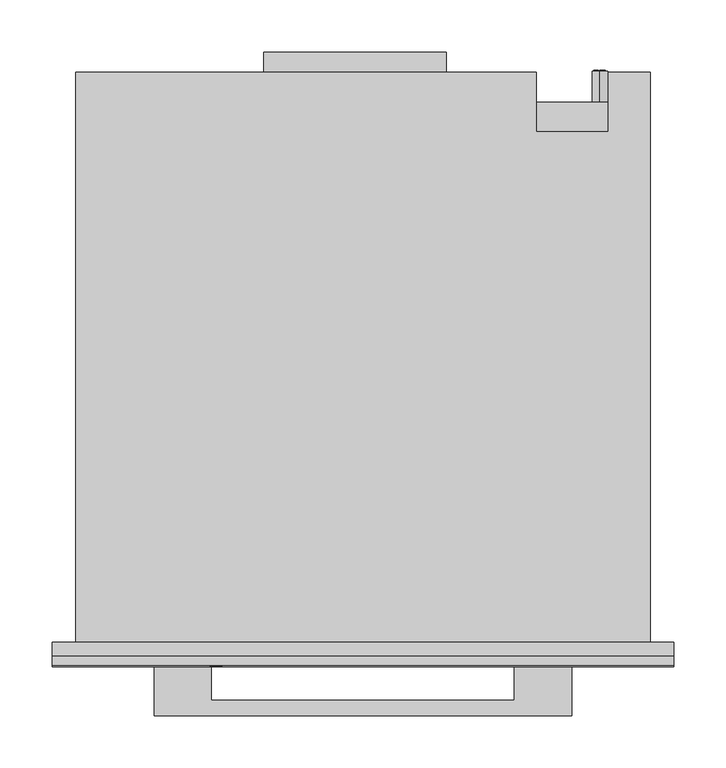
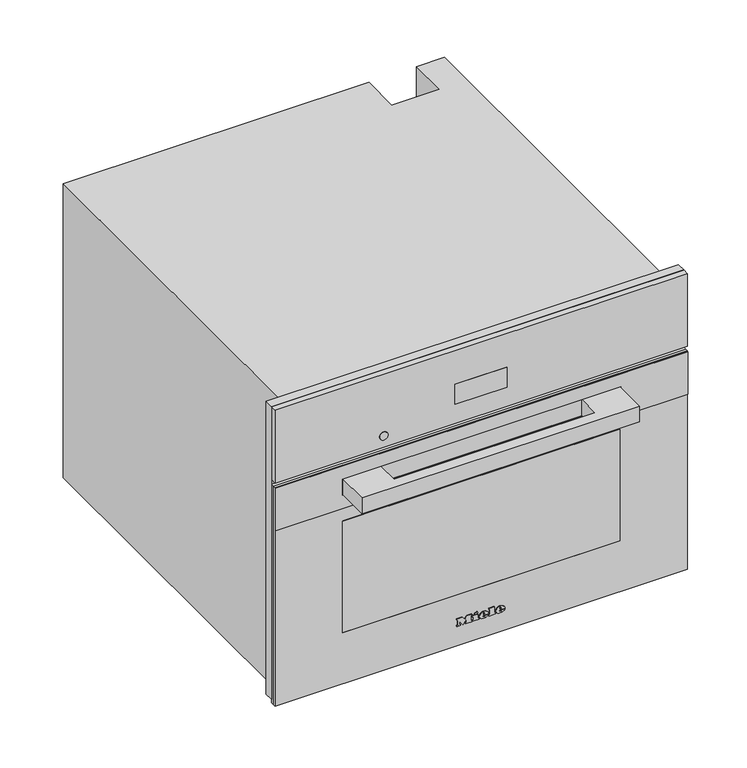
"""IFC4 building model written with IfcOpenShell, lengths in millimetres: proxy geometry, 11876950_USA_DGC7440_EDST-CLST : 23744042_USA_11876950_DGC7440_EDST-CLST."""

import ifcopenshell
import ifcopenshell.guid

model = None  # the IFC model being written
_history = None  # IfcOwnerHistory: only IFC2X3 demands one
_inside = {}  # id of a spatial element -> (the spatial element, [elements in it])
_under = {}  # id of a project, library or spatial element -> (it, [spatial elements below it])
_declared = {}  # id of a project -> (the project, [libraries it declares])
_typed = {}  # id of a type object -> (the type object, [elements of that type])
_made_of = {}  # id of a material, layer set ... -> (it, [elements and type objects made of it])


def new_model(schema):
    """Start an empty IFC model of exactly this schema.

    Asked for "IFC4X3", IfcOpenShell would pick the latest addendum, in which some entities
    have other attributes; the version numbers below select the first issue.
    IFC2X3 requires an IfcOwnerHistory on every rooted entity: one is made here for all.
    """
    global model, _history
    if schema == "IFC4X3":
        model = ifcopenshell.file(schema_version=(4, 3, 0, 0))
    else:
        model = ifcopenshell.file(schema=schema)
    _inside.clear()
    _under.clear()
    _declared.clear()
    _typed.clear()
    _made_of.clear()
    _history = None
    if model.schema == "IFC2X3":
        org = make("IfcOrganization", Name="unknown")
        user = make(
            "IfcPersonAndOrganization",
            ThePerson=make("IfcPerson", FamilyName="unknown"),
            TheOrganization=org,
        )
        app = make(
            "IfcApplication",
            ApplicationDeveloper=org,
            Version="unknown",
            ApplicationFullName="unknown",
            ApplicationIdentifier="unknown",
        )
        _history = make(
            "IfcOwnerHistory",
            OwningUser=user,
            OwningApplication=app,
            ChangeAction="ADDED",
            CreationDate=0,
        )
    return model


def make(cls, **values):
    """One entity of the class cls with the attributes given. An attribute that is None is left unset."""
    return model.create_entity(
        cls, **{name: value for name, value in values.items() if value is not None}
    )


def rooted(cls, **values):
    """An entity with a GlobalId (a new one), such as an element, a storey or a relation."""
    return make(cls, GlobalId=ifcopenshell.guid.new(), OwnerHistory=_history, **values)


def si_unit(unit_type, name, prefix=None):
    """IfcSIUnit, for example si_unit("LENGTHUNIT", "METRE", prefix="MILLI")."""
    return make("IfcSIUnit", UnitType=unit_type, Prefix=prefix, Name=name)


def assignment(units):
    """IfcUnitAssignment: the units of a project."""
    return None if units is None else make("IfcUnitAssignment", Units=units)


def point(xyz):
    """IfcCartesianPoint."""
    return None if xyz is None else make("IfcCartesianPoint", Coordinates=xyz)


def direction(xyz):
    """IfcDirection."""
    return None if xyz is None else make("IfcDirection", DirectionRatios=xyz)


def frame(location, z_axis=None, x_axis=None):
    """IfcAxis2Placement3D, a coordinate frame: its origin and axes. An axis left out is left unset."""
    return make(
        "IfcAxis2Placement3D",
        Location=point(location),
        Axis=direction(z_axis),
        RefDirection=direction(x_axis),
    )


def frame_2d(location, x_axis=None):
    """IfcAxis2Placement2D, a coordinate frame in the plane: its origin and x axis."""
    return make(
        "IfcAxis2Placement2D", Location=point(location), RefDirection=direction(x_axis)
    )


def origin():
    """The frame at (0, 0, 0) with its axes left unset."""
    return frame((0.0, 0.0, 0.0))


def place(relative_to, where):
    """IfcLocalPlacement: puts the frame where relative to a parent placement (None: the world)."""
    return make(
        "IfcLocalPlacement", PlacementRelTo=relative_to, RelativePlacement=where
    )


def context(
    kind, dimensions, precision=None, world=None, true_north=None, identifier=None
):
    """IfcGeometricRepresentationContext, for example the 3D "Model" context."""
    return make(
        "IfcGeometricRepresentationContext",
        ContextIdentifier=identifier,
        ContextType=kind,
        CoordinateSpaceDimension=dimensions,
        Precision=precision,
        WorldCoordinateSystem=world,
        TrueNorth=true_north,
    )


def project(units=None, contexts=None):
    """IfcProject with its units and contexts."""
    return rooted(
        "IfcProject",
        Name="project",
        RepresentationContexts=contexts,
        UnitsInContext=assignment(units),
    )


def spatial(cls, under=None, at=None, **own):
    """A site, building, storey or space (cls), placed at a placement, below another one or the project."""
    s = rooted(cls, ObjectPlacement=at, **own)
    if under is not None:
        _under.setdefault(under.id(), (under, []))[1].append(s)
    return s


def polyline(points):
    """IfcPolyline through the points."""
    return make("IfcPolyline", Points=[point(p) for p in points])


def circle_curve(where, radius):
    """IfcCircle in the frame where."""
    return make("IfcCircle", Position=where, Radius=radius)


def ellipse_curve(where, semi_axis1, semi_axis2):
    """IfcEllipse in the frame where."""
    return make(
        "IfcEllipse", Position=where, SemiAxis1=semi_axis1, SemiAxis2=semi_axis2
    )


def trimmed(basis, trim1, trim2, sense, master):
    """IfcTrimmedCurve: the piece of a basis curve between two trims."""
    return make(
        "IfcTrimmedCurve",
        BasisCurve=basis,
        Trim1=trim1,
        Trim2=trim2,
        SenseAgreement=sense,
        MasterRepresentation=master,
    )


def segment(curve, same_sense, transition):
    """IfcCompositeCurveSegment."""
    return make(
        "IfcCompositeCurveSegment",
        Transition=transition,
        SameSense=same_sense,
        ParentCurve=curve,
    )


def composite_curve(segments, self_intersect=None):
    """IfcCompositeCurve: segments joined end to end."""
    return make("IfcCompositeCurve", Segments=segments, SelfIntersect=self_intersect)


def outline(outer, holes=None, kind="AREA"):
    """IfcArbitraryClosedProfileDef: a profile drawn as a closed curve; with holes, ...WithVoids."""
    if holes is None:
        return make("IfcArbitraryClosedProfileDef", ProfileType=kind, OuterCurve=outer)
    return make(
        "IfcArbitraryProfileDefWithVoids",
        ProfileType=kind,
        OuterCurve=outer,
        InnerCurves=holes,
    )


def extrude(swept, where, along, depth):
    """IfcExtrudedAreaSolid: the profile swept, set in the frame where, extruded along a direction by depth."""
    return make(
        "IfcExtrudedAreaSolid",
        SweptArea=swept,
        Position=where,
        ExtrudedDirection=direction(along),
        Depth=depth,
    )


def faces_of(points, faces, orient=None, outer=None):
    """IfcFace entities. A face is a list of loops; a loop is a list of indices into points, from 0.

    orient and outer hold one flag for each loop. By default every Orientation is true, the
    first loop of a face is its IfcFaceOuterBound and the others are IfcFaceBound.
    """
    made = []
    for i, loops in enumerate(faces):
        bounds = []
        for j, loop in enumerate(loops):
            is_outer = j == 0 if outer is None else outer[i][j]
            bounds.append(
                make(
                    "IfcFaceOuterBound" if is_outer else "IfcFaceBound",
                    Bound=make("IfcPolyLoop", Polygon=[points[k] for k in loop]),
                    Orientation=True if orient is None else orient[i][j],
                )
            )
        made.append(make("IfcFace", Bounds=bounds))
    return made


def faceted_brep(points, faces, orient=None, outer=None, voids=None):
    """IfcFacetedBrep: a solid bounded by flat faces; with voids (closed shells), ...WithVoids."""
    shared = [point(p) for p in points]
    hull = make("IfcClosedShell", CfsFaces=faces_of(shared, faces, orient, outer))
    if voids is None:
        return make("IfcFacetedBrep", Outer=hull)
    return make(
        "IfcFacetedBrepWithVoids",
        Outer=hull,
        Voids=[
            make(cls, CfsFaces=faces_of(shared, fs, o, b)) for cls, fs, o, b in voids
        ],
    )


def shape(context_of_items, identifier, shape_type, items):
    """IfcShapeRepresentation: the items that make up one representation, for example the "Body"."""
    return make(
        "IfcShapeRepresentation",
        ContextOfItems=context_of_items,
        RepresentationIdentifier=identifier,
        RepresentationType=shape_type,
        Items=items,
    )


def source(mapping_origin, context_of_items, identifier, shape_type, items):
    """IfcRepresentationMap: a shape defined once, which mapped items show again and again."""
    return make(
        "IfcRepresentationMap",
        MappingOrigin=mapping_origin,
        MappedRepresentation=shape(context_of_items, identifier, shape_type, items),
    )


def transform(
    local_origin,
    x_axis=None,
    y_axis=None,
    z_axis=None,
    scale=None,
    scale2=None,
    scale3=None,
    uniform=True,
):
    """IfcCartesianTransformationOperator3D, or its non-uniform kind. x_axis, y_axis, z_axis: its Axis1, 2, 3."""
    if uniform:
        return make(
            "IfcCartesianTransformationOperator3D",
            Axis1=direction(x_axis),
            Axis2=direction(y_axis),
            LocalOrigin=point(local_origin),
            Scale=scale,
            Axis3=direction(z_axis),
        )
    return make(
        "IfcCartesianTransformationOperator3DnonUniform",
        Axis1=direction(x_axis),
        Axis2=direction(y_axis),
        LocalOrigin=point(local_origin),
        Scale=scale,
        Axis3=direction(z_axis),
        Scale2=scale2,
        Scale3=scale3,
    )


def mapped(mapping_source, mapping_target):
    """IfcMappedItem: shows the shape of a source again, moved by a transform."""
    return make(
        "IfcMappedItem", MappingSource=mapping_source, MappingTarget=mapping_target
    )


def made_of(thing, what):
    """Note that an element or type object is made of a material, layer set ...; save() writes the relation."""
    if what is not None:
        _made_of.setdefault(what.id(), (what, []))[1].append(thing)
    return thing


def element(
    cls,
    number,
    at=None,
    inside=None,
    cuts=None,
    type_object=None,
    material=None,
    context=None,
    identifier="Body",
    shape_type=None,
    held_by="IfcProductDefinitionShape",
    body=None,
    shapes=None,
    **own,
):
    """One element of the class cls, such as IfcWall. Its Tag is "e" and its number.

    at: its placement. inside: the storey or other place that contains it. cuts: it is an
    opening in that element (IfcRelVoidsElement). A single representation is given by context,
    identifier, shape_type and body (its items); several are given by shapes. held_by: the class
    of the entity that holds the representations. save() writes the other relations.
    """
    e = rooted(cls, Tag="e%d" % number, ObjectPlacement=at, **own)
    if body is not None:
        shapes = [shape(context, identifier, shape_type, body)]
    if shapes is not None:
        e.Representation = make(held_by, Representations=shapes)
    if inside is not None:
        _inside.setdefault(inside.id(), (inside, []))[1].append(e)
    if cuts is not None:
        rooted(
            "IfcRelVoidsElement", RelatingBuildingElement=cuts, RelatedOpeningElement=e
        )
    if type_object is not None:
        _typed.setdefault(type_object.id(), (type_object, []))[1].append(e)
    return made_of(e, material)


def aggregate(whole, parts):
    """IfcRelAggregates: a whole, such as a stair, and the parts it consists of."""
    return rooted("IfcRelAggregates", RelatingObject=whole, RelatedObjects=parts)


def save(model, path):
    """Write the relations noted so far, then the file.

    IfcRelAggregates (storeys below a building ...), IfcRelContainedInSpatialStructure (elements
    in a storey), IfcRelDefinesByType, IfcRelAssociatesMaterial and IfcRelDeclares: one each for
    every whole, place, type object, material and project.
    """
    for whole, parts in _under.values():
        aggregate(whole, parts)
    for where, things in _inside.values():
        rooted(
            "IfcRelContainedInSpatialStructure",
            RelatedElements=things,
            RelatingStructure=where,
        )
    for kind, things in _typed.values():
        rooted("IfcRelDefinesByType", RelatedObjects=things, RelatingType=kind)
    for what, things in _made_of.values():
        rooted("IfcRelAssociatesMaterial", RelatedObjects=things, RelatingMaterial=what)
    for by, libraries in _declared.values():
        rooted("IfcRelDeclares", RelatingContext=by, RelatedDefinitions=libraries)
    model.write(path)


def plane_surface(at):
    """IfcPlane: the flat surface through the origin of the frame at, square to its z axis."""
    return make("IfcPlane", Position=at)


def cylinder_surface(at, radius):
    """IfcCylindricalSurface: all points at the distance radius from the z axis of the frame at."""
    return make("IfcCylindricalSurface", Position=at, Radius=radius)


def revolved_surface(curve, axis_point, axis_direction):
    """IfcSurfaceOfRevolution: the curve turned about the line through axis_point along axis_direction."""
    return make(
        "IfcSurfaceOfRevolution",
        SweptCurve=make("IfcArbitraryOpenProfileDef", ProfileType="CURVE", Curve=curve),
        AxisPosition=make("IfcAxis1Placement", Location=point(axis_point), Axis=direction(axis_direction)),
    )


def extruded_surface(curve, direction_of_extrusion, depth):
    """IfcSurfaceOfLinearExtrusion: the curve pushed along a direction by depth."""
    return make(
        "IfcSurfaceOfLinearExtrusion",
        SweptCurve=make("IfcArbitraryOpenProfileDef", ProfileType="CURVE", Curve=curve),
        ExtrudedDirection=direction(direction_of_extrusion),
        Depth=depth,
    )


def advanced_brep(points, edges, surfaces, faces):
    """IfcAdvancedBrep: a solid bounded by faces that lie on surfaces and meet in shared edges.

    An edge is (start, end): straight between two places in points (the first is 0);
    or (start, end, curve); or (start, end, curve, False) where it runs against its curve.
    A face is (place in surfaces, loops), or (place, loops, False) where it looks against
    its surface's normal. A loop lists edges by number (the first is 1), with a minus sign
    where the edge is run from its end to its start. The first loop is the outer one.
    """
    corners = [point(p) for p in points]
    vertices = [make("IfcVertexPoint", VertexGeometry=c) for c in corners]
    made = []
    for start, end, *more in edges:
        made.append(
            make(
                "IfcEdgeCurve",
                EdgeStart=vertices[start],
                EdgeEnd=vertices[end],
                EdgeGeometry=more[0] if more else make("IfcPolyline", Points=[corners[start], corners[end]]),
                SameSense=more[1] if len(more) > 1 else True,
            )
        )
    hull = []
    for where, loops, *sense in faces:
        bounds = []
        for j, loop in enumerate(loops):
            ring = [make("IfcOrientedEdge", EdgeElement=made[abs(k) - 1], Orientation=k > 0) for k in loop]
            bounds.append(
                make(
                    "IfcFaceOuterBound" if j == 0 else "IfcFaceBound",
                    Bound=make("IfcEdgeLoop", EdgeList=ring),
                    Orientation=True,
                )
            )
        hull.append(make("IfcAdvancedFace", Bounds=bounds, FaceSurface=surfaces[where], SameSense=sense[0] if sense else True))
    return make("IfcAdvancedBrep", Outer=make("IfcClosedShell", CfsFaces=hull))


def specialty_equipment_a3e2d18e(model_context):
    return source(origin(), model_context, "Body", "SolidModel", [
        extrude(outline(polyline([(455.0, 297.5), (455.0, -297.5), (9.0, -297.5), (9.0, 297.5), (455.0, 297.5)]), holes=[polyline([(344.0, -272.5), (344.0, 272.5), (27.0, 272.5), (27.0, -272.5), (344.0, -272.5)])]), frame((0.0, -13.0, 0.0), z_axis=(0.0, 1.0, 0.0), x_axis=(0.0, 0.0, 1.0)), (0.0, 0.0, 1.0), 13.0),
        extrude(outline(polyline([(-95.0, 565.0), (80.0, 565.0), (80.0, 546.0), (-95.0, 546.0), (-95.0, 565.0)])), frame((0.0, 0.0, 260.0), z_axis=(0.0, 0.0, 1.0), x_axis=(1.0, 0.0, 0.0)), (0.0, 0.0, 1.0), 1.0),
        advanced_brep(
        [(227.0, 547.0, 255.5), (227.0, 547.0, 240.5), (221.4098301, 547.0, 243.0), (225.5, 547.0, 243.0), (225.5, 547.0, 253.0), (224.4955303, 547.0, 253.0), (224.4955303, 547.0, 244.0), (221.0315043, 547.0, 244.0), (221.0315043, 547.0, 243.4582978), (232.0, 547.0, 243.0), (232.0, 547.0, 253.0), (227.0, 547.0, 253.0), (227.0, 547.0, 252.0), (231.0, 547.0, 252.0), (231.0, 547.0, 248.5), (228.0, 547.0, 248.5), (228.0, 547.0, 247.5), (231.0, 547.0, 247.5), (231.0, 547.0, 244.0), (227.0, 547.0, 244.0), (227.0, 547.0, 243.0), (227.0, 517.0, 240.5), (227.0, 517.0, 255.5), (232.0, 548.0, 253.0), (232.0, 548.0, 243.0), (227.0, 548.0, 243.0), (227.0, 548.0, 244.0), (231.0, 548.0, 244.0), (231.0, 548.0, 247.5), (228.0, 548.0, 247.5), (228.0, 548.0, 248.5), (231.0, 548.0, 248.5), (231.0, 548.0, 252.0), (227.0, 548.0, 252.0), (227.0, 548.0, 253.0), (225.5, 548.0, 243.0), (221.0315043, 548.0, 243.0), (221.0315043, 548.0, 244.0), (224.4955303, 548.0, 244.0), (224.4955303, 548.0, 253.0), (225.5, 548.0, 253.0), (221.0315043, 547.0, 243.0)],
        [
            (0, 1, circle_curve(frame((227.0, 547.0, 248.0), z_axis=(0.0, 1.0, 0.0), x_axis=(0.0, 0.0, 1.0)), 7.5)),
            (1, 2, circle_curve(frame((227.0, 547.0, 248.0), z_axis=(0.0, 1.0, 0.0), x_axis=(0.0, 0.0, 1.0)), 7.5)),
            (2, 3),
            (3, 4),
            (4, 5),
            (5, 6),
            (6, 7),
            (7, 8),
            (8, 0, circle_curve(frame((227.0, 547.0, 248.0), z_axis=(0.0, 1.0, 0.0), x_axis=(0.0, 0.0, 1.0)), 7.5)),
            (9, 10),
            (10, 11),
            (11, 12),
            (12, 13),
            (13, 14),
            (14, 15),
            (15, 16),
            (16, 17),
            (17, 18),
            (18, 19),
            (19, 20),
            (20, 9),
            (21, 22, circle_curve(frame((227.0, 517.0, 248.0), z_axis=(0.0, -1.0, 0.0), x_axis=(0.0, 0.0, 1.0)), 7.5)),
            (22, 21, circle_curve(frame((227.0, 517.0, 248.0), z_axis=(0.0, -1.0, 0.0), x_axis=(0.0, 0.0, 1.0)), 7.5)),
            (0, 22),
            (21, 1),
            (8, 2, circle_curve(frame((227.0, 547.0, 248.0), z_axis=(0.0, -1.0, 0.0), x_axis=(0.0, 0.0, 1.0)), 7.5)),
            (23, 24),
            (24, 25),
            (25, 26),
            (26, 27),
            (27, 28),
            (28, 29),
            (29, 30),
            (30, 31),
            (31, 32),
            (32, 33),
            (33, 34),
            (34, 23),
            (35, 36),
            (36, 37),
            (37, 38),
            (38, 39),
            (39, 40),
            (40, 35),
            (8, 41),
            (41, 2),
            (23, 10),
            (9, 24),
            (20, 25),
            (19, 26),
            (18, 27),
            (17, 28),
            (16, 29),
            (15, 30),
            (14, 31),
            (13, 32),
            (12, 33),
            (11, 34),
            (35, 3),
            (41, 36),
            (7, 37),
            (6, 38),
            (5, 39),
            (4, 40),
        ],
        [
            plane_surface(frame((227.0, 547.0, 255.5), z_axis=(0.0, 1.0, 0.0), x_axis=(1.0, 0.0, 0.0))),
            plane_surface(frame((227.0, 517.0, 255.5), z_axis=(0.0, -1.0, 0.0), x_axis=(-1.0, 0.0, 0.0))),
            cylinder_surface(frame((227.0, 547.0, 248.0), z_axis=(0.0, -1.0, 0.0), x_axis=(0.0, 0.0, 1.0)), 7.5),
            plane_surface(frame((232.0, 548.0, 253.0), z_axis=(0.0, 1.0, 0.0), x_axis=(0.0, 0.0, -1.0))),
            plane_surface(frame((232.0, 547.0, 253.0), z_axis=(0.0, -1.0, 0.0), x_axis=(0.0, 0.0, 1.0))),
            plane_surface(frame((232.0, 548.0, 253.0), z_axis=(1.0, 0.0, 0.0), x_axis=(0.0, -1.0, 0.0))),
            plane_surface(frame((232.0, 548.0, 243.0), z_axis=(0.0, 0.0, -1.0), x_axis=(0.0, -1.0, 0.0))),
            plane_surface(frame((227.0, 548.0, 243.0), z_axis=(-1.0, 0.0, 0.0), x_axis=(0.0, -1.0, 0.0))),
            plane_surface(frame((227.0, 548.0, 244.0), z_axis=(0.0, 0.0, 1.0), x_axis=(0.0, -1.0, 0.0))),
            plane_surface(frame((231.0, 548.0, 244.0), z_axis=(-1.0, 0.0, 0.0), x_axis=(0.0, -1.0, 0.0))),
            plane_surface(frame((231.0, 548.0, 247.5), z_axis=(0.0, 0.0, -1.0), x_axis=(0.0, -1.0, 0.0))),
            plane_surface(frame((228.0, 548.0, 247.5), z_axis=(-1.0, 0.0, 0.0), x_axis=(0.0, -1.0, 0.0))),
            plane_surface(frame((228.0, 548.0, 248.5), z_axis=(0.0, 0.0, 1.0), x_axis=(0.0, -1.0, 0.0))),
            plane_surface(frame((231.0, 548.0, 248.5), z_axis=(-1.0, 0.0, 0.0), x_axis=(0.0, -1.0, 0.0))),
            plane_surface(frame((231.0, 548.0, 252.0), z_axis=(0.0, 0.0, -1.0), x_axis=(0.0, -1.0, 0.0))),
            plane_surface(frame((227.0, 548.0, 252.0), z_axis=(-1.0, 0.0, 0.0), x_axis=(0.0, -1.0, 0.0))),
            plane_surface(frame((227.0, 548.0, 253.0), z_axis=(0.0, 0.0, 1.0), x_axis=(0.0, -1.0, 0.0))),
            plane_surface(frame((225.5, 548.0, 243.0), z_axis=(0.0, 0.0, -1.0), x_axis=(0.0, -1.0, 0.0))),
            plane_surface(frame((221.0315043, 548.0, 243.0), z_axis=(-1.0, 0.0, 0.0), x_axis=(0.0, -1.0, 0.0))),
            plane_surface(frame((221.0315043, 548.0, 244.0), z_axis=(0.0, 0.0, 1.0), x_axis=(0.0, -1.0, 0.0))),
            plane_surface(frame((224.4955303, 548.0, 244.0), z_axis=(-1.0, 0.0, 0.0), x_axis=(0.0, -1.0, 0.0))),
            plane_surface(frame((224.4955303, 548.0, 253.0), z_axis=(0.0, 0.0, 1.0), x_axis=(0.0, -1.0, 0.0))),
            plane_surface(frame((225.5, 548.0, 253.0), z_axis=(1.0, 0.0, 0.0), x_axis=(0.0, -1.0, 0.0))),
        ],
        [
            (0, [[1, 2, 3, 4, 5, 6, 7, 8, 9], [10, 11, 12, 13, 14, 15, 16, 17, 18, 19, 20, 21]]),
            (1, [[22, 23]]),
            (2, [[-1, 24, -22, 25]]),
            (2, [[-23, -24, -9, 26, -2, -25]]),
            (3, [[27, 28, 29, 30, 31, 32, 33, 34, 35, 36, 37, 38]]),
            (3, [[39, 40, 41, 42, 43, 44]]),
            (4, [[45, 46, -26]]),
            (5, [[-27, 47, -10, 48]]),
            (6, [[-28, -48, -21, 49]]),
            (7, [[-29, -49, -20, 50]]),
            (8, [[-30, -50, -19, 51]]),
            (9, [[-31, -51, -18, 52]]),
            (10, [[-32, -52, -17, 53]]),
            (11, [[-33, -53, -16, 54]]),
            (12, [[-34, -54, -15, 55]]),
            (13, [[-35, -55, -14, 56]]),
            (14, [[-36, -56, -13, 57]]),
            (15, [[-37, -57, -12, 58]]),
            (16, [[-38, -58, -11, -47]]),
            (17, [[-39, 59, -3, -46, 60]]),
            (18, [[-40, -60, -45, -8, 61]]),
            (19, [[-41, -61, -7, 62]]),
            (20, [[-42, -62, -6, 63]]),
            (21, [[-43, -63, -5, 64]]),
            (22, [[-44, -64, -4, -59]]),
        ],
    ),
        faceted_brep([(-275.0, 546.0, 0.0), (-275.0, 546.0, 448.0), (166.0, 546.0, 448.0), (166.0, 546.0, 0.0), (235.0, 546.0, 448.0), (275.0, 546.0, 448.0), (275.0, 546.0, 338.0), (235.0, 546.0, 338.0), (275.0, 0.0, 448.0), (-275.0, 0.0, 448.0), (-275.0, 0.0, 0.0), (275.0, 0.0, 0.0), (-272.5, 0.0, 344.0), (272.5, 0.0, 344.0), (272.5, 0.0, 27.0), (-272.5, 0.0, 27.0), (235.0, 489.0, 448.0), (166.0, 489.0, 448.0), (166.0, 517.0, 0.0), (275.0, 517.0, 0.0), (275.0, 517.0, 338.0), (272.5, 17.0, 344.0), (-272.5, 17.0, 344.0), (-272.5, 17.0, 27.0), (272.5, 17.0, 27.0), (231.0, 17.0, 307.0), (231.0, 17.0, 65.0), (-231.0, 17.0, 65.0), (-231.0, 17.0, 307.0), (231.0, 411.0, 307.0), (-231.0, 411.0, 307.0), (-231.0, 411.0, 65.0), (231.0, 411.0, 65.0), (235.0, 489.0, 337.0), (166.0, 489.0, 337.0), (166.0, 517.0, 337.0), (235.0, 517.0, 337.0), (235.0, 517.0, 338.0)], [[[0, 1, 2, 3]], [[4, 5, 6, 7]], [[8, 9, 10, 11], [12, 13, 14, 15]], [[9, 8, 5, 4, 16, 17, 2, 1]], [[1, 0, 10, 9]], [[11, 10, 0, 3, 18, 19]], [[8, 11, 19, 20, 6, 5]], [[21, 22, 23, 24], [25, 26, 27, 28]], [[22, 21, 13, 12]], [[23, 22, 12, 15]], [[24, 23, 15, 14]], [[21, 24, 14, 13]], [[29, 30, 31, 32]], [[29, 32, 26, 25]], [[32, 31, 27, 26]], [[31, 30, 28, 27]], [[30, 29, 25, 28]], [[16, 33, 34, 17]], [[17, 34, 35, 18, 3, 2]], [[34, 33, 36, 35]], [[33, 16, 4, 7, 37, 36]], [[37, 20, 19, 18, 35, 36]], [[20, 37, 7, 6]]]),
        advanced_brep(
        [(26.2998, -23.0, 36.7018), (26.2998, -23.0, 37.8532), (33.9264, -23.0, 37.8532), (20.6568, -23.0, 37.8532), (23.7918, -23.0, 34.0), (33.7326, -23.0, 36.7018), (30.2898, -23.0, 36.7018), (27.5766, -23.0, 35.425), (26.2998, -23.0, 39.3124), (26.2998, -23.0, 40.555), (28.2492, -23.0, 40.555), (28.2492, -23.0, 39.3124), (26.2998, -22.0, 36.7018), (27.5766, -22.0, 35.425), (30.2898, -22.0, 36.7018), (33.7326, -22.0, 36.7018), (23.7918, -22.0, 34.0), (20.6568, -22.0, 37.8532), (33.9264, -22.0, 37.8532), (26.2998, -22.0, 37.8532), (26.2998, -22.0, 39.3124), (28.2492, -22.0, 39.3124), (28.2492, -22.0, 40.555), (26.2998, -22.0, 40.555)],
        [
            (0, 1),
            (1, 2),
            (2, 3, ellipse_curve(frame((27.2916, -23.0, 37.8532), z_axis=(0.0, -1.0, 0.0), x_axis=(-1.0, 0.0, 0.0)), 6.6348, 5.4834)),
            (3, 4, circle_curve(frame((25.0686622, -23.0, 38.2408), z_axis=(0.0, -1.0, 0.0), x_axis=(0.0, 0.0, -1.0)), 4.4288556)),
            (4, 5, circle_curve(frame((27.1587808, -23.0, 41.2504), z_axis=(0.0, -1.0, 0.0), x_axis=(0.0, 0.0, -1.0)), 7.9940516)),
            (5, 6),
            (6, 7, circle_curve(frame((28.1338588, -23.0, 37.762), z_axis=(0.0, 1.0, 0.0), x_axis=(0.0, 0.0, -1.0)), 2.4025208)),
            (7, 0, circle_curve(frame((27.5766, -23.0, 36.7018), z_axis=(0.0, 1.0, 0.0), x_axis=(0.0, 0.0, -1.0)), 1.2768)),
            (8, 9),
            (9, 10, circle_curve(frame((27.2745, -23.0, 40.555), z_axis=(0.0, 1.0, 0.0), x_axis=(0.0, 0.0, -1.0)), 0.9747)),
            (10, 11),
            (11, 8),
            (12, 13, circle_curve(frame((27.5766, -22.0, 36.7018), z_axis=(0.0, -1.0, 0.0), x_axis=(0.0, 0.0, -1.0)), 1.2768)),
            (13, 14, circle_curve(frame((28.1338588, -22.0, 37.762), z_axis=(0.0, -1.0, 0.0), x_axis=(0.0, 0.0, -1.0)), 2.4025208)),
            (14, 15),
            (15, 16, circle_curve(frame((27.1587808, -22.0, 41.2504), z_axis=(0.0, 1.0, 0.0), x_axis=(0.0, 0.0, -1.0)), 7.9940516)),
            (16, 17, circle_curve(frame((25.0686622, -22.0, 38.2408), z_axis=(0.0, 1.0, 0.0), x_axis=(0.0, 0.0, -1.0)), 4.4288556)),
            (17, 18, ellipse_curve(frame((27.2916, -22.0, 37.8532), z_axis=(0.0, 1.0, 0.0), x_axis=(-1.0, 0.0, 0.0)), 6.6348, 5.4834)),
            (18, 19),
            (19, 12),
            (20, 21),
            (21, 22),
            (22, 23, circle_curve(frame((27.2745, -22.0, 40.555), z_axis=(0.0, -1.0, 0.0), x_axis=(0.0, 0.0, -1.0)), 0.9747)),
            (23, 20),
            (0, 12),
            (19, 1),
            (18, 2),
            (5, 15),
            (14, 6),
            (17, 3),
            (13, 7),
            (16, 4),
            (8, 20),
            (23, 9),
            (22, 10),
            (21, 11),
        ],
        [
            plane_surface(frame((26.2998, -23.0, 37.8532), z_axis=(0.0, -1.0, 0.0), x_axis=(0.0, 0.0, 1.0))),
            plane_surface(frame((26.2998, -22.0, 37.8532), z_axis=(0.0, 1.0, 0.0), x_axis=(0.0, 0.0, -1.0))),
            plane_surface(frame((26.2998, -23.0, 36.7018), z_axis=(1.0, 0.0, 0.0), x_axis=(0.0, 1.0, 0.0))),
            plane_surface(frame((26.2998, -23.0, 37.8532), z_axis=(0.0, 0.0, -1.0), x_axis=(0.0, 1.0, 0.0))),
            plane_surface(frame((33.7326, -23.0, 36.7018), z_axis=(0.0, 0.0, 1.0), x_axis=(0.0, 1.0, 0.0))),
            extruded_surface(trimmed(ellipse_curve(frame((27.2916, -21.0, 37.8532), z_axis=(0.0, -1.0, 0.0), x_axis=(-1.0, 0.0, 0.0)), 6.6348, 5.4834), [point((33.9264, -21.0, 37.8532))], [point((20.6568, -21.0, 37.8532))], True, "CARTESIAN"), (0.0, -1.0, 0.0), 1.0),
            revolved_surface(polyline([(28.1338588, -22.0, 35.3594792), (28.1338588, -23.0, 35.3594792)]), (28.1338588, -22.0, 37.762), (0.0, 1.0, 0.0)),
            revolved_surface(polyline([(27.5766, -22.0, 35.425), (27.5766, -23.0, 35.425)]), (27.5766, -22.0, 36.7018), (0.0, 1.0, 0.0)),
            cylinder_surface(frame((25.0686622, -22.0, 38.2408), z_axis=(0.0, -1.0, 0.0), x_axis=(0.0, 0.0, -1.0)), 4.4288556),
            cylinder_surface(frame((27.1587808, -22.0, 41.2504), z_axis=(0.0, -1.0, 0.0), x_axis=(0.0, 0.0, -1.0)), 7.9940516),
            plane_surface(frame((26.2998, -23.0, 39.3124), z_axis=(1.0, 0.0, 0.0), x_axis=(0.0, 1.0, 0.0))),
            revolved_surface(polyline([(27.2745, -22.0, 39.5803), (27.2745, -23.0, 39.5803)]), (27.2745, -22.0, 40.555), (0.0, 1.0, 0.0)),
            plane_surface(frame((28.2492, -23.0, 40.555), z_axis=(-1.0, 0.0, 0.0), x_axis=(0.0, 1.0, 0.0))),
            plane_surface(frame((28.2492, -23.0, 39.3124), z_axis=(0.0, 0.0, 1.0), x_axis=(0.0, 1.0, 0.0))),
        ],
        [
            (0, [[1, 2, 3, 4, 5, 6, 7, 8], [9, 10, 11, 12]]),
            (1, [[13, 14, 15, 16, 17, 18, 19, 20], [21, 22, 23, 24]]),
            (2, [[-1, 25, -20, 26]]),
            (3, [[-2, -26, -19, 27]]),
            (4, [[-6, 28, -15, 29]]),
            (5, [[-3, -27, -18, 30]]),
            (6, [[-7, -29, -14, 31]]),
            (7, [[-8, -31, -13, -25]]),
            (8, [[-4, -30, -17, 32]]),
            (9, [[-5, -32, -16, -28]]),
            (10, [[-9, 33, -24, 34]]),
            (11, [[-10, -34, -23, 35]]),
            (12, [[-11, -35, -22, 36]]),
            (13, [[-12, -36, -21, -33]]),
        ],
    ),
        advanced_brep(
        [(2.508, -23.0, 36.7018), (2.508, -23.0, 37.8532), (10.1346, -23.0, 37.8532), (-3.135, -23.0, 37.8532), (0.0, -23.0, 34.0), (9.9408, -23.0, 36.7018), (6.498, -23.0, 36.7018), (3.7848, -23.0, 35.425), (2.508, -23.0, 39.3124), (2.508, -23.0, 40.555), (4.4574, -23.0, 40.555), (4.4574, -23.0, 39.3124), (2.508, -22.0, 36.7018), (3.7848, -22.0, 35.425), (6.498, -22.0, 36.7018), (9.9408, -22.0, 36.7018), (0.0, -22.0, 34.0), (-3.135, -22.0, 37.8532), (10.1346, -22.0, 37.8532), (2.508, -22.0, 37.8532), (2.508, -22.0, 39.3124), (4.4574, -22.0, 39.3124), (4.4574, -22.0, 40.555), (2.508, -22.0, 40.555)],
        [
            (0, 1),
            (1, 2),
            (2, 3, ellipse_curve(frame((3.4998, -23.0, 37.8532), z_axis=(0.0, -1.0, 0.0), x_axis=(-1.0, 0.0, 0.0)), 6.6348, 5.4834)),
            (3, 4, circle_curve(frame((1.2768622, -23.0, 38.2408), z_axis=(0.0, -1.0, 0.0), x_axis=(0.0, 0.0, -1.0)), 4.4288556)),
            (4, 5, circle_curve(frame((3.3669808, -23.0, 41.2504), z_axis=(0.0, -1.0, 0.0), x_axis=(0.0, 0.0, -1.0)), 7.9940516)),
            (5, 6),
            (6, 7, circle_curve(frame((4.3420588, -23.0, 37.762), z_axis=(0.0, 1.0, 0.0), x_axis=(0.0, 0.0, -1.0)), 2.4025208)),
            (7, 0, circle_curve(frame((3.7848, -23.0, 36.7018), z_axis=(0.0, 1.0, 0.0), x_axis=(0.0, 0.0, -1.0)), 1.2768)),
            (8, 9),
            (9, 10, circle_curve(frame((3.4827, -23.0, 40.555), z_axis=(0.0, 1.0, 0.0), x_axis=(0.0, 0.0, -1.0)), 0.9747)),
            (10, 11),
            (11, 8),
            (12, 13, circle_curve(frame((3.7848, -22.0, 36.7018), z_axis=(0.0, -1.0, 0.0), x_axis=(0.0, 0.0, -1.0)), 1.2768)),
            (13, 14, circle_curve(frame((4.3420588, -22.0, 37.762), z_axis=(0.0, -1.0, 0.0), x_axis=(0.0, 0.0, -1.0)), 2.4025208)),
            (14, 15),
            (15, 16, circle_curve(frame((3.3669808, -22.0, 41.2504), z_axis=(0.0, 1.0, 0.0), x_axis=(0.0, 0.0, -1.0)), 7.9940516)),
            (16, 17, circle_curve(frame((1.2768622, -22.0, 38.2408), z_axis=(0.0, 1.0, 0.0), x_axis=(0.0, 0.0, -1.0)), 4.4288556)),
            (17, 18, ellipse_curve(frame((3.4998, -22.0, 37.8532), z_axis=(0.0, 1.0, 0.0), x_axis=(-1.0, 0.0, 0.0)), 6.6348, 5.4834)),
            (18, 19),
            (19, 12),
            (20, 21),
            (21, 22),
            (22, 23, circle_curve(frame((3.4827, -22.0, 40.555), z_axis=(0.0, -1.0, 0.0), x_axis=(0.0, 0.0, -1.0)), 0.9747)),
            (23, 20),
            (0, 12),
            (19, 1),
            (18, 2),
            (5, 15),
            (14, 6),
            (17, 3),
            (13, 7),
            (16, 4),
            (8, 20),
            (23, 9),
            (22, 10),
            (21, 11),
        ],
        [
            plane_surface(frame((2.508, -23.0, 37.8532), z_axis=(0.0, -1.0, 0.0), x_axis=(0.0, 0.0, 1.0))),
            plane_surface(frame((2.508, -22.0, 37.8532), z_axis=(0.0, 1.0, 0.0), x_axis=(0.0, 0.0, -1.0))),
            plane_surface(frame((2.508, -23.0, 36.7018), z_axis=(1.0, 0.0, 0.0), x_axis=(0.0, 1.0, 0.0))),
            plane_surface(frame((2.508, -23.0, 37.8532), z_axis=(0.0, 0.0, -1.0), x_axis=(0.0, 1.0, 0.0))),
            plane_surface(frame((9.9408, -23.0, 36.7018), z_axis=(0.0, 0.0, 1.0), x_axis=(0.0, 1.0, 0.0))),
            extruded_surface(trimmed(ellipse_curve(frame((3.4998, -21.0, 37.8532), z_axis=(0.0, -1.0, 0.0), x_axis=(-1.0, 0.0, 0.0)), 6.6348, 5.4834), [point((10.1346, -21.0, 37.8532))], [point((-3.135, -21.0, 37.8532))], True, "CARTESIAN"), (0.0, -1.0, 0.0), 1.0),
            revolved_surface(polyline([(4.3420588, -22.0, 35.3594792), (4.3420588, -23.0, 35.3594792)]), (4.3420588, -22.0, 37.762), (0.0, 1.0, 0.0)),
            revolved_surface(polyline([(3.7848, -22.0, 35.425), (3.7848, -23.0, 35.425)]), (3.7848, -22.0, 36.7018), (0.0, 1.0, 0.0)),
            cylinder_surface(frame((1.2768622, -22.0, 38.2408), z_axis=(0.0, -1.0, 0.0), x_axis=(0.0, 0.0, -1.0)), 4.4288556),
            cylinder_surface(frame((3.3669808, -22.0, 41.2504), z_axis=(0.0, -1.0, 0.0), x_axis=(0.0, 0.0, -1.0)), 7.9940516),
            plane_surface(frame((2.508, -23.0, 39.3124), z_axis=(1.0, 0.0, 0.0), x_axis=(0.0, 1.0, 0.0))),
            revolved_surface(polyline([(3.4827, -22.0, 39.5803), (3.4827, -23.0, 39.5803)]), (3.4827, -22.0, 40.555), (0.0, 1.0, 0.0)),
            plane_surface(frame((4.4574, -23.0, 40.555), z_axis=(-1.0, 0.0, 0.0), x_axis=(0.0, 1.0, 0.0))),
            plane_surface(frame((4.4574, -23.0, 39.3124), z_axis=(0.0, 0.0, 1.0), x_axis=(0.0, 1.0, 0.0))),
        ],
        [
            (0, [[1, 2, 3, 4, 5, 6, 7, 8], [9, 10, 11, 12]]),
            (1, [[13, 14, 15, 16, 17, 18, 19, 20], [21, 22, 23, 24]]),
            (2, [[-1, 25, -20, 26]]),
            (3, [[-2, -26, -19, 27]]),
            (4, [[-6, 28, -15, 29]]),
            (5, [[-3, -27, -18, 30]]),
            (6, [[-7, -29, -14, 31]]),
            (7, [[-8, -31, -13, -25]]),
            (8, [[-4, -30, -17, 32]]),
            (9, [[-5, -32, -16, -28]]),
            (10, [[-9, 33, -24, 34]]),
            (11, [[-10, -34, -23, 35]]),
            (12, [[-11, -35, -22, 36]]),
            (13, [[-12, -36, -21, -33]]),
        ],
    ),
        extrude(outline(polyline([(44.7274, -9.9522), (42.8806, -9.0858), (44.6818, -5.2212), (46.5286, -6.0762), (44.7274, -9.9522)])), frame((0.0, -23.0, 0.0), z_axis=(0.0, 1.0, 0.0), x_axis=(0.0, 0.0, 1.0)), (0.0, 0.0, 1.0), 1.0),
        extrude(outline(polyline([(42.6298, -12.768), (40.5892, -12.768), (40.5892, -11.4114), (35.9152, -11.4114), (35.9152, -12.768), (34.0, -12.768), (34.0, -3.7734), (35.9152, -3.7734), (35.9152, -5.0958), (42.6298, -5.0958), (42.6298, -12.768)])), frame((0.0, -23.0, 0.0), z_axis=(0.0, 1.0, 0.0), x_axis=(0.0, 0.0, 1.0)), (0.0, 0.0, 1.0), 1.0),
        extrude(outline(polyline([(43.5418, 10.773), (43.5418, 12.141), (35.9152, 12.141), (35.9152, 10.773), (34.0, 10.773), (34.0, 20.0184), (35.9152, 20.0184), (35.9152, 18.6162), (45.4, 18.6162), (45.4, 10.773), (43.5418, 10.773)])), frame((0.0, -23.0, 0.0), z_axis=(0.0, 1.0, 0.0), x_axis=(0.0, 0.0, 1.0)), (0.0, 0.0, 1.0), 1.0),
        extrude(outline(polyline([(43.5418, -35.4882), (43.5418, -34.1088), (35.9152, -34.1088), (35.9152, -35.4882), (34.0, -35.4882), (34.0, -30.4722), (35.9152, -30.4722), (35.9152, -31.8402), (40.7429247, -31.8402), (34.0, -26.7444), (40.9402223, -21.6258), (35.9152, -21.6258), (35.9152, -23.028), (34.0, -23.028), (34.0, -13.9308), (35.9152, -13.9308), (35.9152, -15.3786), (43.5418, -15.3786), (43.5418, -13.9308), (45.4, -13.9308), (45.4, -20.8734), (41.125, -24.2022), (45.4, -27.5424), (45.4, -35.4882), (43.5418, -35.4882)])), frame((0.0, -23.0, 0.0), z_axis=(0.0, 1.0, 0.0), x_axis=(0.0, 0.0, 1.0)), (0.0, 0.0, 1.0), 1.0),
        extrude(outline(composite_curve([segment(trimmed(circle_curve(frame_2d((361.0, -140.5745637)), 6.0), [point((361.0, -146.5745637))], [point((361.0, -134.5745637))], False, "CARTESIAN"), True, "CONTINUOUS"), segment(trimmed(circle_curve(frame_2d((361.0, -140.5745637)), 6.0), [point((361.0, -134.5745637))], [point((361.0, -146.5745637))], False, "CARTESIAN"), True, "CONTINUOUS")], self_intersect=False)), frame((0.0, -22.5, 0.0), z_axis=(0.0, 1.0, 0.0), x_axis=(0.0, 0.0, 1.0)), (0.0, 0.0, 1.0), 1.0),
        extrude(outline(polyline([(-37.5, -21.0), (37.5, -21.0), (37.5, -22.0), (-37.5, -22.0), (-37.5, -21.0)])), frame((0.0, 0.0, 373.0), z_axis=(0.0, 0.0, 1.0), x_axis=(1.0, 0.0, 0.0)), (0.0, 0.0, 1.0), 30.5),
        faceted_brep([(297.5, -22.0, 455.0), (-297.5, -22.0, 455.0), (-297.5, -22.0, 344.0), (297.5, -22.0, 344.0), (37.5, -22.0, 403.5), (37.5, -22.0, 373.0), (-37.5, -22.0, 373.0), (-37.5, -22.0, 403.5), (297.5, -13.0, 455.0), (297.5, -13.0, 344.0), (-297.5, -13.0, 344.0), (-297.5, -13.0, 455.0), (37.5, -21.0, 403.5), (-37.5, -21.0, 403.5), (-37.5, -21.0, 373.0), (37.5, -21.0, 373.0)], [[[0, 1, 2, 3], [4, 5, 6, 7]], [[8, 9, 10, 11]], [[1, 0, 8, 11]], [[2, 1, 11, 10]], [[3, 2, 10, 9]], [[0, 3, 9, 8]], [[12, 13, 14, 15]], [[12, 15, 5, 4]], [[15, 14, 6, 5]], [[14, 13, 7, 6]], [[13, 12, 4, 7]]]),
        extrude(outline(polyline([(200.0, -22.0), (-200.0, -22.0), (-200.0, -18.0), (200.0, -18.0), (200.0, -22.0)])), frame((0.0, 0.0, 82.0), z_axis=(0.0, 0.0, 1.0), x_axis=(1.0, 0.0, 0.0)), (0.0, 0.0, 1.0), 170.0),
        extrude(outline(polyline([(337.0, 297.5), (337.0, -297.5), (4.0, -297.5), (4.0, 297.5), (337.0, 297.5)]), holes=[polyline([(252.0, -200.0), (252.0, 200.0), (82.0, 200.0), (82.0, -200.0), (252.0, -200.0)])]), frame((0.0, -22.0, 0.0), z_axis=(0.0, 1.0, 0.0), x_axis=(0.0, 0.0, 1.0)), (0.0, 0.0, 1.0), 4.0),
        extrude(outline(polyline([(337.0, 297.5), (337.0, -297.5), (272.0, -297.5), (272.0, 297.5), (337.0, 297.5)]), holes=[polyline([(317.0, -200.5), (317.0, 200.5), (292.0, 200.5), (292.0, -200.5), (317.0, -200.5)])]), frame((0.0, -23.3, 0.0), z_axis=(0.0, 1.0, 0.0), x_axis=(0.0, 0.0, 1.0)), (0.0, 0.0, 1.0), 1.3),
        extrude(outline(polyline([(-200.0, -70.3), (-200.0, -22.0), (-145.0, -22.0), (-145.0, -55.3), (145.0, -55.3), (145.0, -22.0), (200.0, -22.0), (200.0, -70.3), (-200.0, -70.3)])), frame((0.0, 0.0, 292.5), z_axis=(0.0, 0.0, 1.0), x_axis=(1.0, 0.0, 0.0)), (0.0, 0.0, 1.0), 24.0),
        extrude(outline(polyline([(297.5, -18.0), (-297.5, -18.0), (-297.5, -13.0), (297.5, -13.0), (297.5, -18.0)])), frame((0.0, 0.0, 4.0), z_axis=(0.0, 0.0, 1.0), x_axis=(1.0, 0.0, 0.0)), (0.0, 0.0, 1.0), 333.0),
    ])


if __name__ == "__main__":
    model = new_model("IFC4")
    model_context = context("Model", 3, world=origin())
    ifc_project = project(units=[si_unit("LENGTHUNIT", "METRE", prefix="MILLI")], contexts=[model_context])
    site = spatial("IfcSite", under=ifc_project)
    building = spatial("IfcBuilding", under=site)
    placement = place(None, origin())
    specialty_equipment_shape = specialty_equipment_a3e2d18e(model_context)
    element("IfcBuildingElementProxy", 1, Name="11876950_USA_DGC7440_EDST-CLST : 23744042_USA_11876950_DGC7440_EDST-CLST", ObjectType="11876950_USA_DGC7440_EDST-CLST : 23744042_USA_11876950_DGC7440_EDST-CLST", at=placement, inside=building, context=model_context, shape_type="MappedRepresentation", body=[
        mapped(specialty_equipment_shape, transform((0.0, 0.0, 0.0), x_axis=(1.0, 0.0, 0.0), y_axis=(0.0, 1.0, 0.0), z_axis=(0.0, 0.0, 1.0))),
    ])
    save(model, "model.ifc")
